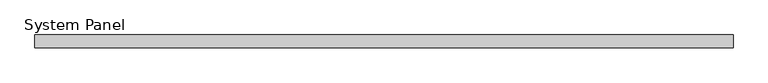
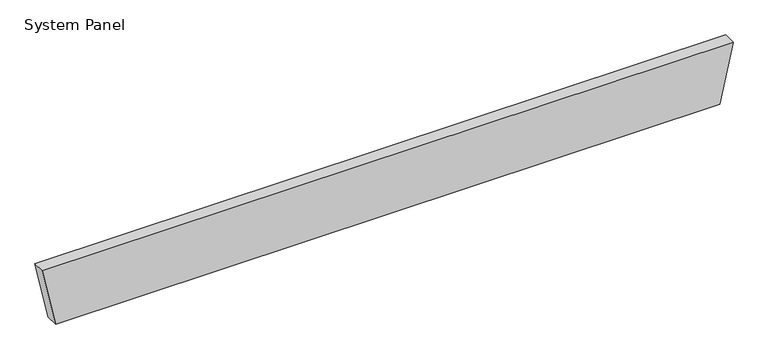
"""IFC4 building model written with IfcOpenShell, lengths in millimetres: plate geometry, System Panel : Equitilt_250mm_Plain_Surfmist."""

from ifc_helpers import new_model, si_unit, frame, origin, place, context, project, spatial, polyline, outline, extrude, source, transform, mapped, element, save


def system_panel_1483571d(model_context):
    return source(origin(), model_context, "Body", "SweptSolid", [
        extrude(outline(polyline([(0.0, -6521.7433237), (0.0, 6521.7433237), (1200.0, 6782.6149856), (1200.0, -6782.6149856), (0.0, -6521.7433237)])), frame((0.0, -250.0, 0.0), z_axis=(0.0, 1.0, 0.0), x_axis=(0.0, 0.0, 1.0)), (0.0, 0.0, 1.0), 250.0),
    ])


if __name__ == "__main__":
    model = new_model("IFC4")
    model_context = context("Model", 3, world=origin())
    ifc_project = project(units=[si_unit("LENGTHUNIT", "METRE", prefix="MILLI")], contexts=[model_context])
    site = spatial("IfcSite", under=ifc_project)
    building = spatial("IfcBuilding", under=site)
    placement = place(None, origin())
    system_panel_shape = system_panel_1483571d(model_context)
    element("IfcPlate", 1, ObjectType="System Panel : Equitilt_250mm_Plain_Surfmist", at=placement, inside=building, context=model_context, shape_type="MappedRepresentation", body=[
        mapped(system_panel_shape, transform((0.0, 0.0, 0.0), x_axis=(1.0, 0.0, 0.0), y_axis=(0.0, 1.0, 0.0), z_axis=(0.0, 0.0, 1.0))),
    ])
    save(model, "model.ifc")
